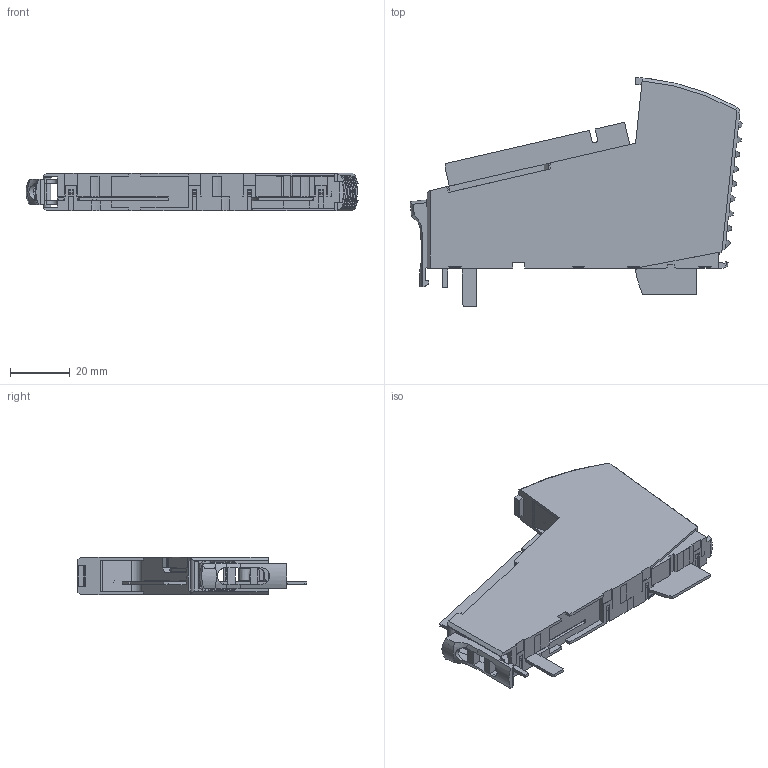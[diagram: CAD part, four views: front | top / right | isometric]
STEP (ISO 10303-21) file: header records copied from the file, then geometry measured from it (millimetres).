
FILE_DESCRIPTION((''),'2;1');
FILE_NAME('2036531','2024-05-02T08:13:13',('l.merz'),(''),'CREO PARAMETRIC BY PTC INC, 2019292','CREO PARAMETRIC BY PTC INC, 2019292','');
FILE_SCHEMA(('AUTOMOTIVE_DESIGN { 1 0 10303 214 1 1 1 1 }'));
Products named in the file (1): 2036531
Bounding box: 111.5 x 76.92 x 12.5 mm (x, y, z)
Volume: 18625.4 mm3; surface area: 36812 mm2
Topology: 2 solids, 2 shells, 2084 faces, 5895 edges, 3808 vertices
Faces by surface type: plane 1239, extrusion 335, cylinder 302, bspline 100, cone 88, torus 14, sphere 6
Entity records: 95975 total; most frequent: CARTESIAN_POINT 25767, ORIENTED_EDGE 11778, DIRECTION 9033, PRESENTATION_STYLE_ASSIGNMENT 5923, STYLED_ITEM 5892, CURVE_STYLE 5890, EDGE_CURVE 5889, VECTOR 4361
